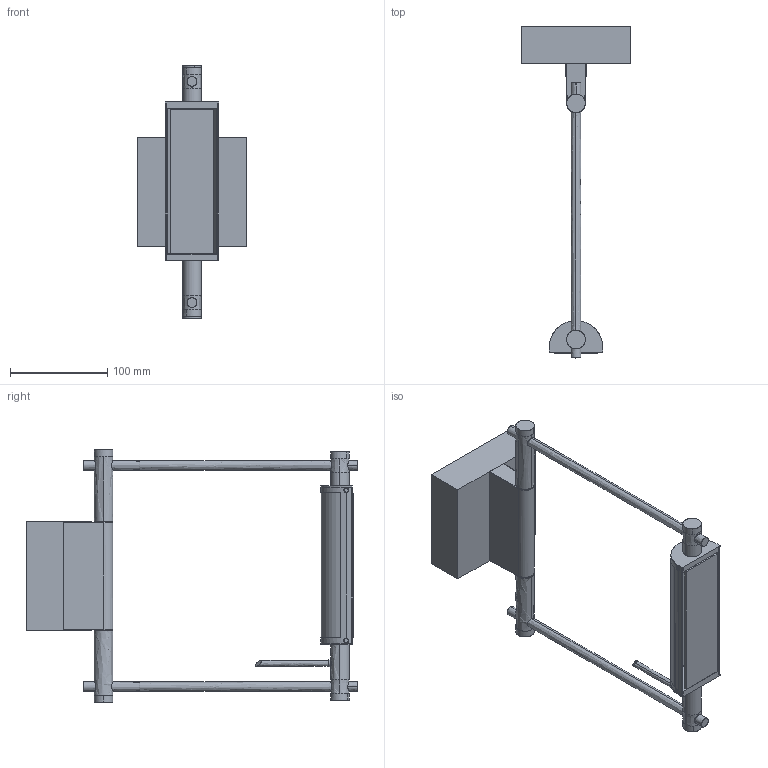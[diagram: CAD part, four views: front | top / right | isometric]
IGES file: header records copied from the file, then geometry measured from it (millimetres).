
Start section: SolidWorks IGES file using analytic representation for surfaces
Global section: file name: C:\Users\tungari.NEMOLIGHTING\Desktop\3D\WALL_CEILING\3D_LOGO_WALLL\DEF\3D_LOGO_WALL.IGS; native system: SolidWorks 2016; preprocessor: SolidWorks 2016; author: tungari; date: 180315.143720; units: millimetre
Bounding box: 112 x 340.52 x 259.12 mm (x, y, z)
Surface area: 146287.7 mm2 (no closed solid volume)
Topology: 0 solids, 0 shells, 274 faces, 4300 edges, 4300 vertices
Faces by surface type: bspline 145, revolution 129
